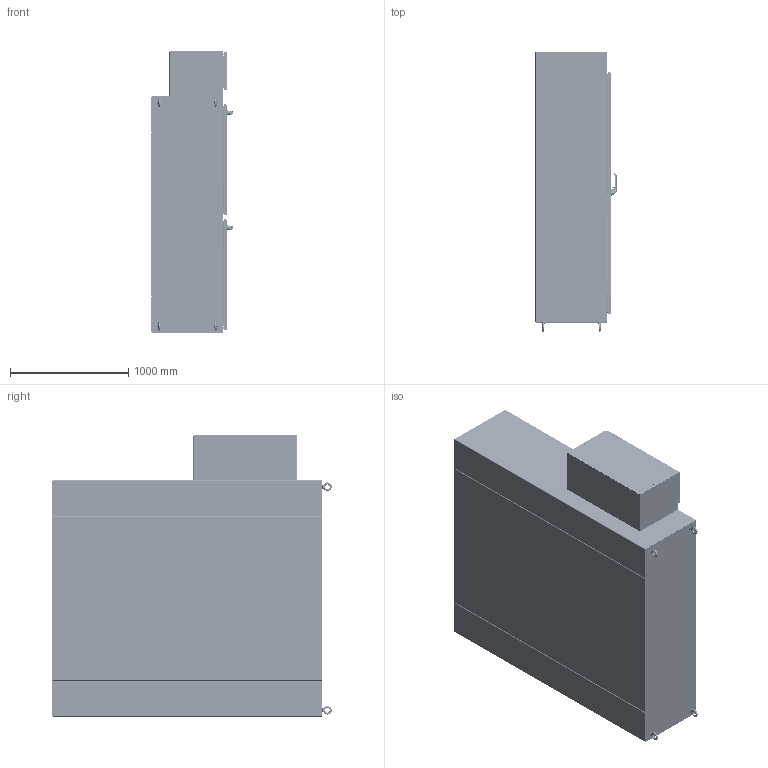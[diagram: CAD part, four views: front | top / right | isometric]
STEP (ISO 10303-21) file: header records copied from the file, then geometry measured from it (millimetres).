
FILE_DESCRIPTION((''),'2;1');
FILE_NAME('MODEL-604_ASM','2021-11-08T11:39:51',('mikek'),('SAGINAW CONTROL & ENGINEERING'),'CREO PARAMETRIC BY PTC INC, 2017260','CREO PARAMETRIC BY PTC INC, 2017260','');
FILE_SCHEMA(('AUTOMOTIVE_DESIGN { 1 0 10303 214 1 1 1 1 }'));
Length unit declared in the file: inch
Products named in the file (184): MODEL-604-RH-TP; MODEL-604-RH-R-SD; MODEL-604-RH-L-SD; MODEL-604-RH-BTM; MODEL-604-RH-BCK; 127619; 100028; 127619_ASM; MODEL-604-RH-CCA-CHNL; MODEL-604-RH-CCA-STIF; 100062; 127618; 127617; 102535; 100057; MODEL-604-RH-CCASSY_ASM; MODEL-604-M-DR; 100837; 111267; 100882; 100956_HANDLE; 100956_HANDLE_INSERT; 100956_SHAFT_CAM; 100956_ADAPTER_CAM; 100956_NUT_CAM; 100956_BASE; 100956_O-RING; 100956_WASHER_SEALING; 100956_NUT_MOUNTING_LARGE; 100956_NUT_MOUNTING_SMALL; 100956_SCREW_SMALL; 100956_PADLOCK_CATCH; 100956_STOP_CAM; 100956_ASM; 102237; 100030; 102237_ASM; MODEL-604-ROD-UPR-MD; 128146; 128145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
Assembly tree (455 placements, depth 5):
  MODEL-604_ASM
    MODEL-604-RH-TP
    MODEL-604-RH-R-SD
    MODEL-604-RH-L-SD
    MODEL-604-RH-BTM
    MODEL-604-RH-BCK
    127619_ASM  x2
      127619
      100028
    MODEL-604-RH-CCASSY_ASM
      MODEL-604-RH-CCA-CHNL
      MODEL-604-RH-CCA-STIF
      100062  x4
      127618  x2
      127617  x2
      102535  x8
      100057  x2
    MODEL-604-M-DOOR-ASSY_ASM
      MODEL-604-M-DR
      100837  x7
      111267
      100882  x12
      100956_ASM
        100956_HANDLE
        100956_HANDLE_INSERT
        100956_SHAFT_CAM
        100956_ADAPTER_CAM
        100956_NUT_CAM
        100956_BASE
        100956_O-RING
        100956_WASHER_SEALING
        100956_NUT_MOUNTING_LARGE
        100956_NUT_MOUNTING_SMALL
        100956_SCREW_SMALL
        100956_PADLOCK_CATCH
        100956_STOP_CAM
      102237_ASM
        102237
        100030  x2
      MODEL-604-ROD-UPR-MD_ASM
        MODEL-604-ROD-UPR-MD
        128146
        128145
        128144
        102482  x2
      128143  x2
      112504  x2
      MODEL-604-ROD-LWR-MD_ASM
        MODEL-604-ROD-LWR-MD
        128146
        128145
        128144
        102482  x2
      MODEL-604-PR-GSKT-MD
      128257_ASM  x4
        128257
        126397
      126393  x4
      102483  x4
      101369_ASM  x4
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Bounding box: 686.97 x 2365.04 x 2381.25 mm (x, y, z)
Volume: 66031115.4 mm3; surface area: 44554569.5 mm2
Topology: 495 solids, 495 shells, 33212 faces, 84642 edges, 52548 vertices
Faces by surface type: plane 11709, cylinder 8551, bspline 7349, torus 2413, cone 1828, sphere 1022, extrusion 340
Entity records: 492668 total; most frequent: CARTESIAN_POINT 141647, ORIENTED_EDGE 49346, DIRECTION 48773, EDGE_CURVE 24673, PRESENTATION_STYLE_ASSIGNMENT 23445, STYLED_ITEM 23066, CURVE_STYLE 22846, AXIS2_PLACEMENT_3D 18185
